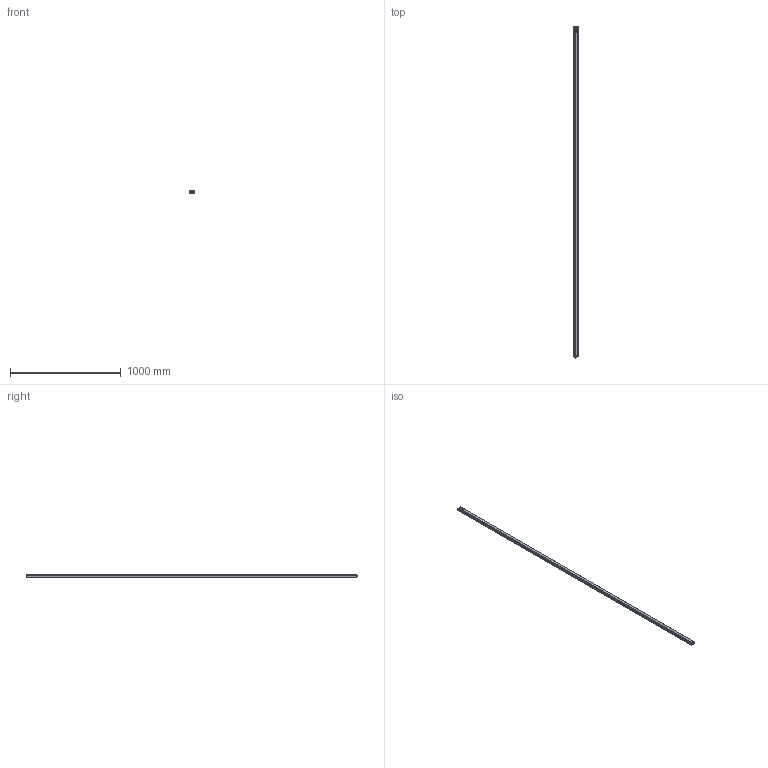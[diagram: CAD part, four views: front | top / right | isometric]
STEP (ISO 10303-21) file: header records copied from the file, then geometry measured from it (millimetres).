
FILE_DESCRIPTION(/* description */ (''),/* implementation_level */ '2;1');
FILE_NAME(/* name */ 'C:\Users\andre\SynologyDrive\Optoscan\Libreria Componenti\00 - Barriere\Barriera sorgente\Argo_2960_TX.stp',/* time_stamp */ '2021-04-23T12:46:38+02:00',/* author */ ('andre'),/* organization */ (''),/* preprocessor_version */ 'ST-DEVELOPER v18',/* originating_system */ 'Autodesk Inventor 2020',/* authorisation */ '');
FILE_SCHEMA (('AUTOMOTIVE_DESIGN { 1 0 10303 214 3 1 1 }'));
Length unit declared in the file: millimetre
Products named in the file (1): Argo_2960_TX
Bounding box: 40.5 x 2993.3 x 20.75 mm (x, y, z)
Volume: 587402.7 mm3; surface area: 776751.3 mm2
Topology: 1 solids, 1 shells, 680 faces, 1867 edges, 1193 vertices
Faces by surface type: plane 317, cylinder 191, bspline 94, torus 64, cone 8, sphere 6
Full cylindrical faces by diameter (mm): 1 x4, 2.5 x4, 3 x4, 3.5 x4, 5.5 x4, 8 x1, 10.5 x2, 11.75 x9, 15.7 x1, 17.5 x1
Entity records: 30188 total; most frequent: CARTESIAN_POINT 12578, ORIENTED_EDGE 3718, DIRECTION 3299, EDGE_CURVE 1859, VERTEX_POINT 1193, AXIS2_PLACEMENT_3D 1137, LINE 1025, VECTOR 1025
